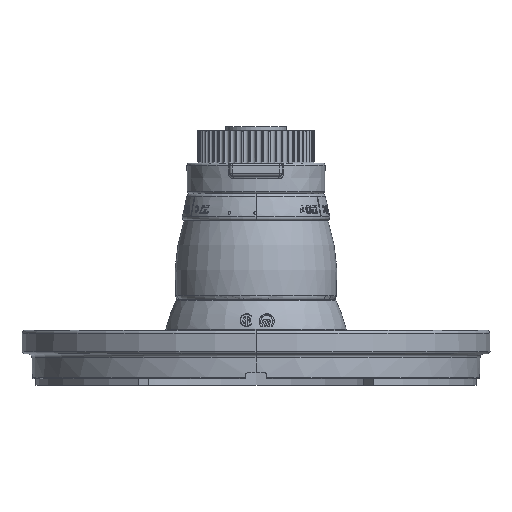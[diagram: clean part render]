
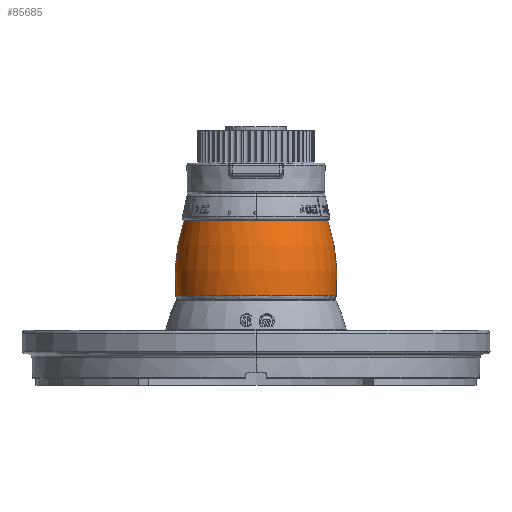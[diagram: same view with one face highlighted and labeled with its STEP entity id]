
A CAD part, front view. The second image highlights one B-rep face of the part: STEP entity #85685.
In plain terms, the highlighted toroidal (fillet/blend) face has major radius 39.054 mm and minor radius 69.85 mm.
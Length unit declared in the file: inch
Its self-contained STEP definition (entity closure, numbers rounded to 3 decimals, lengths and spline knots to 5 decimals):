
#2544 = EDGE_CURVE ( 'NONE', #92042, #10373, #28937, .T. ) ;
#9022 = CIRCLE ( 'NONE', #93156, 1.07726 ) ;
#10373 = VERTEX_POINT ( 'NONE', #71271 ) ;
#12093 = CARTESIAN_POINT ( 'NONE',  ( 0.2419, 0., 0. ) ) ;
#13752 = AXIS2_PLACEMENT_3D ( 'NONE', #86202, #55884, #61848 ) ;
#14190 = TOROIDAL_SURFACE ( 'NONE', #63391, -1.53755, 2.75 ) ;
#14435 = DIRECTION ( 'NONE',  ( -1., 0., 0. ) ) ;
#19867 = EDGE_CURVE ( 'NONE', #62461, #10373, #68420, .T. ) ;
#28744 = DIRECTION ( 'NONE',  ( 1., 0., 0. ) ) ;
#28937 = CIRCLE ( 'NONE', #44925, 2.75 ) ;
#29074 = ORIENTED_EDGE ( 'NONE', *, *, #2544, .F. ) ;
#36951 = ORIENTED_EDGE ( 'NONE', *, *, #77590, .T. ) ;
#40036 = CARTESIAN_POINT ( 'NONE',  ( 1.09353, 0., 0. ) ) ;
#41423 = DIRECTION ( 'NONE',  ( 1., 0., 0. ) ) ;
#44779 = DIRECTION ( 'NONE',  ( 0., 1., 0. ) ) ;
#44925 = AXIS2_PLACEMENT_3D ( 'NONE', #64580, #87942, #28744 ) ;
#49518 = VERTEX_POINT ( 'NONE', #52294 ) ;
#52294 = CARTESIAN_POINT ( 'NONE',  ( 0.2419, 1.07726, 0. ) ) ;
#55448 = DIRECTION ( 'NONE',  ( 1., 0., 0. ) ) ;
#55884 = DIRECTION ( 'NONE',  ( 0., 0., -1. ) ) ;
#61848 = DIRECTION ( 'NONE',  ( -1., 0., 0. ) ) ;
#62150 = CARTESIAN_POINT ( 'NONE',  ( 1.35491, 0., 0. ) ) ;
#62461 = VERTEX_POINT ( 'NONE', #91381 ) ;
#62939 = CIRCLE ( 'NONE', #13752, 2.75 ) ;
#63391 = AXIS2_PLACEMENT_3D ( 'NONE', #40036, #55448, #79260 ) ;
#63910 = EDGE_LOOP ( 'NONE', ( #36951, #70982, #93767, #29074 ) ) ;
#64580 = CARTESIAN_POINT ( 'NONE',  ( 1.09353, 1.53755, 0. ) ) ;
#65903 = CARTESIAN_POINT ( 'NONE',  ( 0.2419, -1.07726, 0. ) ) ;
#68420 = CIRCLE ( 'NONE', #81098, 1.2 ) ;
#70982 = ORIENTED_EDGE ( 'NONE', *, *, #77474, .T. ) ;
#71271 = CARTESIAN_POINT ( 'NONE',  ( 1.35491, -1.2, 0. ) ) ;
#77474 = EDGE_CURVE ( 'NONE', #49518, #62461, #62939, .T. ) ;
#77590 = EDGE_CURVE ( 'NONE', #92042, #49518, #9022, .T. ) ;
#79201 = DIRECTION ( 'NONE',  ( 0., 0., -1. ) ) ;
#79260 = DIRECTION ( 'NONE',  ( 0., -1., 0. ) ) ;
#81098 = AXIS2_PLACEMENT_3D ( 'NONE', #62150, #14435, #44779 ) ;
#85685 = ADVANCED_FACE ( 'NONE', ( #86736 ), #14190, .T. ) ;
#86202 = CARTESIAN_POINT ( 'NONE',  ( 1.09353, -1.53755, 0. ) ) ;
#86736 = FACE_OUTER_BOUND ( 'NONE', #63910, .T. ) ;
#87942 = DIRECTION ( 'NONE',  ( 0., 0., 1. ) ) ;
#91381 = CARTESIAN_POINT ( 'NONE',  ( 1.35491, 1.2, 0. ) ) ;
#92042 = VERTEX_POINT ( 'NONE', #65903 ) ;
#93156 = AXIS2_PLACEMENT_3D ( 'NONE', #12093, #41423, #79201 ) ;
#93767 = ORIENTED_EDGE ( 'NONE', *, *, #19867, .T. ) ;
